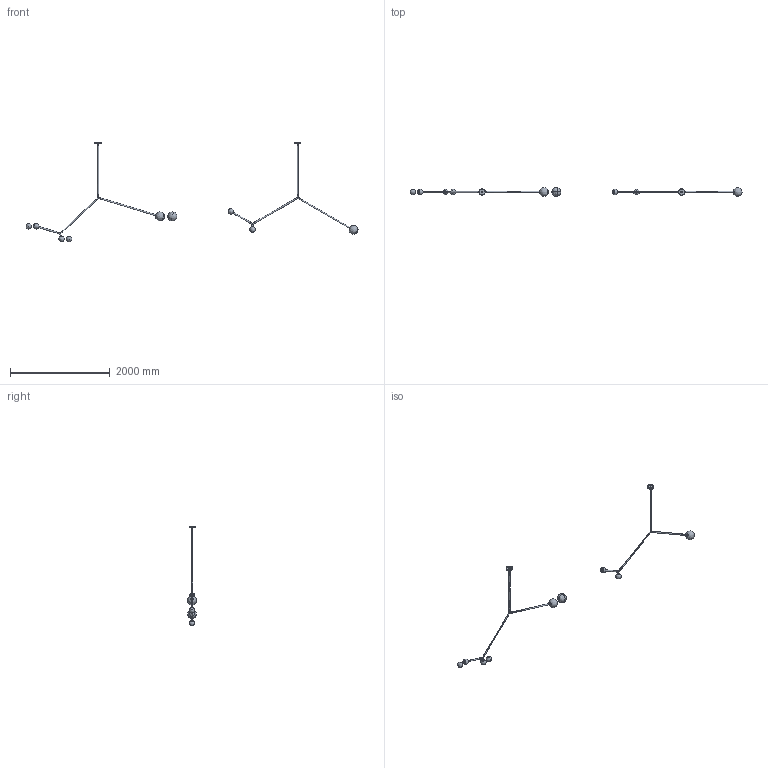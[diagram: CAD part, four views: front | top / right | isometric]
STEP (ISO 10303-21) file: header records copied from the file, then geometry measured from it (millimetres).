
FILE_DESCRIPTION(/* description */ (''),/* implementation_level */ '2;1');
FILE_NAME(/* name */ 'SkLO_LT903_Angle2.0Pendant_3D_m',/* time_stamp */ '2025-03-20T11:27:15+01:00',/* author */ (''),/* organization */ (''),/* preprocessor_version */ 'ST-DEVELOPER v16.5',/* originating_system */ 'Rhino 7.38',/* authorisation */ '');
FILE_SCHEMA (('CONFIG_CONTROL_DESIGN'));
Products named in the file (1): Document
Bounding box: 6649.38 x 180 x 1996.98 mm (x, y, z)
Volume: 3103238.7 mm3; surface area: 2396084.8 mm2
Topology: 103 solids, 105 shells, 3811 faces, 9812 edges, 6321 vertices
Faces by surface type: plane 1733, bspline 1100, cylinder 978
Full cylindrical faces by diameter (mm): 3 x20, 5.065 x132, 7 x4, 8.775 x2, 9 x2, 9.185 x32, 10 x28, 10.725 x2, 11 x4, 13 x8, 20.58 x2, 20.787 x2, 20.788 x2, 20.8 x6, 20.85 x10, 21 x30, 23 x6, 23.92 x12, 25 x24, 27 x12, 27.877 x42, 29 x2, 30 x6, 34 x2, 35 x2, 38 x6, 42 x6, 127 x2
Entity records: 790700 total; most frequent: CARTESIAN_POINT 729059, ORIENTED_EDGE 18560, EDGE_CURVE 9282, B_SPLINE_CURVE_WITH_KNOTS 6828, VERTEX_POINT 5925, EDGE_LOOP 4047, ADVANCED_FACE 3733, FACE_OUTER_BOUND 3733
